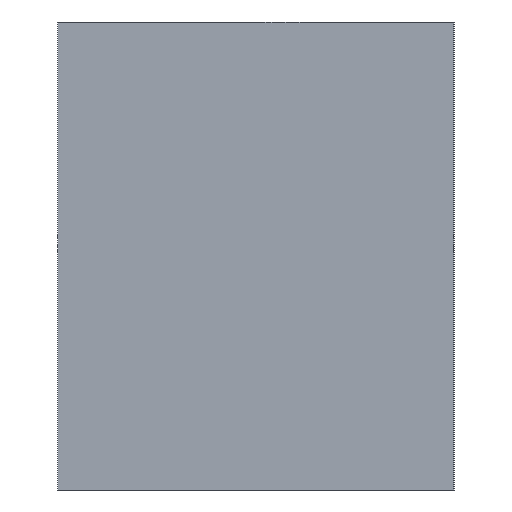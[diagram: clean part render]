
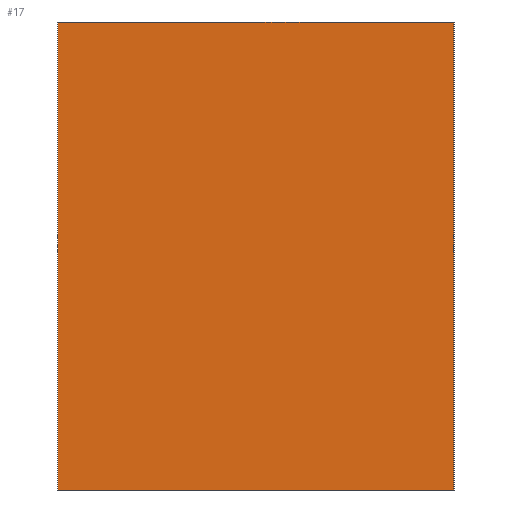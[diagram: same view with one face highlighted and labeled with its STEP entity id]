
A CAD part, left-side view. The second image highlights one B-rep face of the part: STEP entity #17.
In plain terms, the highlighted planar face has unit normal (-1, 0, 0).
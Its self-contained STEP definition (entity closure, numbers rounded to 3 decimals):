
#17 = ADVANCED_FACE('',(#18),#32,.F.);
#18 = FACE_BOUND('',#19,.F.);
#19 = EDGE_LOOP('',(#20,#55,#83,#111));
#20 = ORIENTED_EDGE('',*,*,#21,.F.);
#21 = EDGE_CURVE('',#22,#24,#26,.T.);
#22 = VERTEX_POINT('',#23);
#23 = CARTESIAN_POINT('',(-465.,-80.,44.));
#24 = VERTEX_POINT('',#25);
#25 = CARTESIAN_POINT('',(-465.,-80.,70.));
#26 = SURFACE_CURVE('',#27,(#31,#43),.PCURVE_S1.);
#27 = LINE('',#28,#29);
#28 = CARTESIAN_POINT('',(-465.,-80.,44.));
#29 = VECTOR('',#30,1.);
#30 = DIRECTION('',(0.,0.,1.));
#31 = PCURVE('',#32,#37);
#32 = PLANE('',#33);
#33 = AXIS2_PLACEMENT_3D('',#34,#35,#36);
#34 = CARTESIAN_POINT('',(-465.,-80.,44.));
#35 = DIRECTION('',(1.,0.,-0.));
#36 = DIRECTION('',(0.,0.,1.));
#37 = DEFINITIONAL_REPRESENTATION('',(#38),#42);
#38 = LINE('',#39,#40);
#39 = CARTESIAN_POINT('',(0.,0.));
#40 = VECTOR('',#41,1.);
#41 = DIRECTION('',(1.,0.));
#42 = ( GEOMETRIC_REPRESENTATION_CONTEXT(2) 
PARAMETRIC_REPRESENTATION_CONTEXT() REPRESENTATION_CONTEXT('2D SPACE',''
  ) );
#43 = PCURVE('',#44,#49);
#44 = PLANE('',#45);
#45 = AXIS2_PLACEMENT_3D('',#46,#47,#48);
#46 = CARTESIAN_POINT('',(-465.,-80.,44.));
#47 = DIRECTION('',(-0.,1.,0.));
#48 = DIRECTION('',(0.,0.,1.));
#49 = DEFINITIONAL_REPRESENTATION('',(#50),#54);
#50 = LINE('',#51,#52);
#51 = CARTESIAN_POINT('',(0.,0.));
#52 = VECTOR('',#53,1.);
#53 = DIRECTION('',(1.,0.));
#54 = ( GEOMETRIC_REPRESENTATION_CONTEXT(2) 
PARAMETRIC_REPRESENTATION_CONTEXT() REPRESENTATION_CONTEXT('2D SPACE',''
  ) );
#55 = ORIENTED_EDGE('',*,*,#56,.T.);
#56 = EDGE_CURVE('',#22,#57,#59,.T.);
#57 = VERTEX_POINT('',#58);
#58 = CARTESIAN_POINT('',(-465.,-58.,44.));
#59 = SURFACE_CURVE('',#60,(#64,#71),.PCURVE_S1.);
#60 = LINE('',#61,#62);
#61 = CARTESIAN_POINT('',(-465.,-80.,44.));
#62 = VECTOR('',#63,1.);
#63 = DIRECTION('',(-0.,1.,0.));
#64 = PCURVE('',#32,#65);
#65 = DEFINITIONAL_REPRESENTATION('',(#66),#70);
#66 = LINE('',#67,#68);
#67 = CARTESIAN_POINT('',(0.,0.));
#68 = VECTOR('',#69,1.);
#69 = DIRECTION('',(0.,-1.));
#70 = ( GEOMETRIC_REPRESENTATION_CONTEXT(2) 
PARAMETRIC_REPRESENTATION_CONTEXT() REPRESENTATION_CONTEXT('2D SPACE',''
  ) );
#71 = PCURVE('',#72,#77);
#72 = PLANE('',#73);
#73 = AXIS2_PLACEMENT_3D('',#74,#75,#76);
#74 = CARTESIAN_POINT('',(-465.,-80.,44.));
#75 = DIRECTION('',(0.,0.,1.));
#76 = DIRECTION('',(1.,0.,-0.));
#77 = DEFINITIONAL_REPRESENTATION('',(#78),#82);
#78 = LINE('',#79,#80);
#79 = CARTESIAN_POINT('',(0.,0.));
#80 = VECTOR('',#81,1.);
#81 = DIRECTION('',(0.,1.));
#82 = ( GEOMETRIC_REPRESENTATION_CONTEXT(2) 
PARAMETRIC_REPRESENTATION_CONTEXT() REPRESENTATION_CONTEXT('2D SPACE',''
  ) );
#83 = ORIENTED_EDGE('',*,*,#84,.T.);
#84 = EDGE_CURVE('',#57,#85,#87,.T.);
#85 = VERTEX_POINT('',#86);
#86 = CARTESIAN_POINT('',(-465.,-58.,70.));
#87 = SURFACE_CURVE('',#88,(#92,#99),.PCURVE_S1.);
#88 = LINE('',#89,#90);
#89 = CARTESIAN_POINT('',(-465.,-58.,44.));
#90 = VECTOR('',#91,1.);
#91 = DIRECTION('',(0.,0.,1.));
#92 = PCURVE('',#32,#93);
#93 = DEFINITIONAL_REPRESENTATION('',(#94),#98);
#94 = LINE('',#95,#96);
#95 = CARTESIAN_POINT('',(0.,-22.));
#96 = VECTOR('',#97,1.);
#97 = DIRECTION('',(1.,0.));
#98 = ( GEOMETRIC_REPRESENTATION_CONTEXT(2) 
PARAMETRIC_REPRESENTATION_CONTEXT() REPRESENTATION_CONTEXT('2D SPACE',''
  ) );
#99 = PCURVE('',#100,#105);
#100 = PLANE('',#101);
#101 = AXIS2_PLACEMENT_3D('',#102,#103,#104);
#102 = CARTESIAN_POINT('',(-465.,-58.,44.));
#103 = DIRECTION('',(-0.,1.,0.));
#104 = DIRECTION('',(0.,0.,1.));
#105 = DEFINITIONAL_REPRESENTATION('',(#106),#110);
#106 = LINE('',#107,#108);
#107 = CARTESIAN_POINT('',(0.,0.));
#108 = VECTOR('',#109,1.);
#109 = DIRECTION('',(1.,0.));
#110 = ( GEOMETRIC_REPRESENTATION_CONTEXT(2) 
PARAMETRIC_REPRESENTATION_CONTEXT() REPRESENTATION_CONTEXT('2D SPACE',''
  ) );
#111 = ORIENTED_EDGE('',*,*,#112,.F.);
#112 = EDGE_CURVE('',#24,#85,#113,.T.);
#113 = SURFACE_CURVE('',#114,(#118,#125),.PCURVE_S1.);
#114 = LINE('',#115,#116);
#115 = CARTESIAN_POINT('',(-465.,-80.,70.));
#116 = VECTOR('',#117,1.);
#117 = DIRECTION('',(-0.,1.,0.));
#118 = PCURVE('',#32,#119);
#119 = DEFINITIONAL_REPRESENTATION('',(#120),#124);
#120 = LINE('',#121,#122);
#121 = CARTESIAN_POINT('',(26.,0.));
#122 = VECTOR('',#123,1.);
#123 = DIRECTION('',(0.,-1.));
#124 = ( GEOMETRIC_REPRESENTATION_CONTEXT(2) 
PARAMETRIC_REPRESENTATION_CONTEXT() REPRESENTATION_CONTEXT('2D SPACE',''
  ) );
#125 = PCURVE('',#126,#131);
#126 = PLANE('',#127);
#127 = AXIS2_PLACEMENT_3D('',#128,#129,#130);
#128 = CARTESIAN_POINT('',(-465.,-80.,70.));
#129 = DIRECTION('',(0.,0.,1.));
#130 = DIRECTION('',(1.,0.,-0.));
#131 = DEFINITIONAL_REPRESENTATION('',(#132),#136);
#132 = LINE('',#133,#134);
#133 = CARTESIAN_POINT('',(0.,0.));
#134 = VECTOR('',#135,1.);
#135 = DIRECTION('',(0.,1.));
#136 = ( GEOMETRIC_REPRESENTATION_CONTEXT(2) 
PARAMETRIC_REPRESENTATION_CONTEXT() REPRESENTATION_CONTEXT('2D SPACE',''
  ) );
